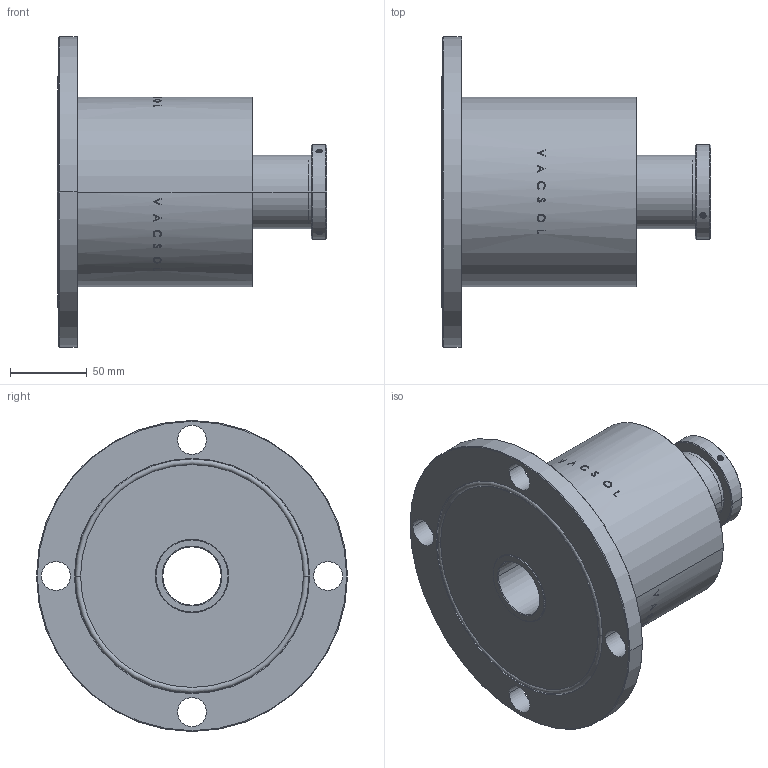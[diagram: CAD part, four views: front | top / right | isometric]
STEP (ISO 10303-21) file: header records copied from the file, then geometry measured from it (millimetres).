
FILE_DESCRIPTION (( 'STEP AP203' ), '1' );
FILE_NAME ('p6404126.STEP', '2010-10-11T11:01:58', ( 'user' ), ( '' ), 'SwSTEP 2.0', 'SolidWorks 2007', '' );
FILE_SCHEMA (( 'CONFIG_CONTROL_DESIGN' ));
Length unit declared in the file: millimetre
Products named in the file (1): p6404126
Bounding box: 176.02 x 203.2 x 203.2 mm (x, y, z)
Volume: 1672984.9 mm3; surface area: 162017.9 mm2
Topology: 2 solids, 2 shells, 425 faces, 1143 edges, 754 vertices
Faces by surface type: cylinder 197, bspline 186, cone 20, plane 18, torus 4
Entity records: 37355 total; most frequent: CARTESIAN_POINT 29031, ORIENTED_EDGE 2286, EDGE_CURVE 1143, DIRECTION 869, VERTEX_POINT 754, B_SPLINE_CURVE_WITH_KNOTS 576, EDGE_LOOP 475, ADVANCED_FACE 425
